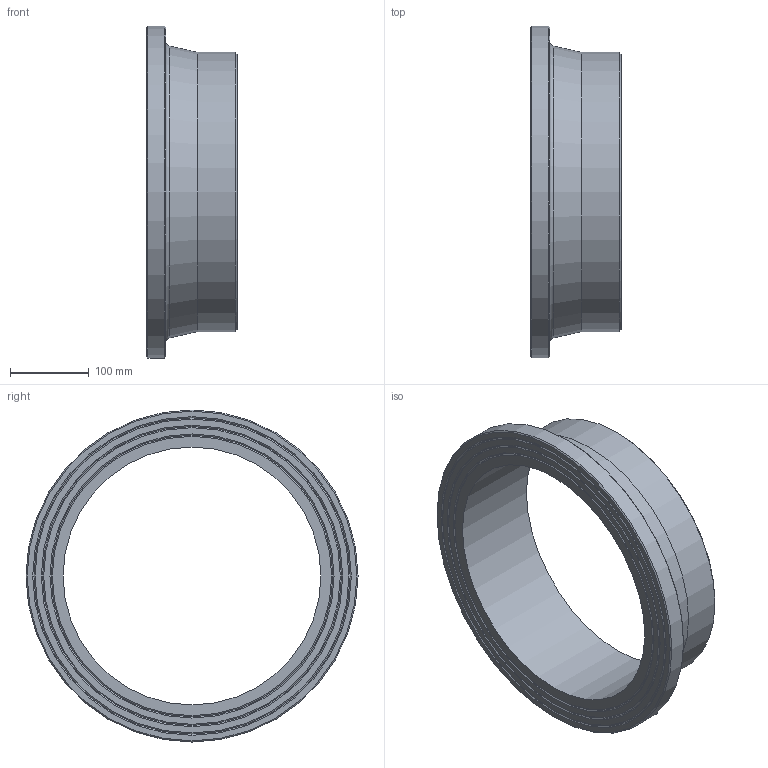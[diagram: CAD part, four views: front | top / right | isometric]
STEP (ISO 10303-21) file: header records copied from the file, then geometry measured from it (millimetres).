
FILE_DESCRIPTION(/* description */ ('Unknown'),/* implementation_level */ '2;1');
FILE_NAME(/* name */ 'CCP355A',/* time_stamp */ '2022-04-05T10:29:34+02:00',/* author */ ('Unknown'),/* organization */ ('Unknown'),/* preprocessor_version */ 'ST-DEVELOPER v18.1',/* originating_system */ 'Solid Edge',/* authorisation */ 'Unknown');
FILE_SCHEMA (('AUTOMOTIVE_DESIGN {1 0 10303 214 3 1 1}'));
Length unit declared in the file: millimetre
Products named in the file (1): CCP355A
Bounding box: 115 x 422 x 422 mm (x, y, z)
Volume: 2861010 mm3; surface area: 351495.3 mm2
Topology: 1 solids, 1 shells, 20 faces, 35 edges, 21 vertices
Faces by surface type: cone 10, plane 6, cylinder 3, torus 1
Full cylindrical faces by diameter (mm): 327.8 x1, 355 x1, 422 x1
Entity records: 438 total; most frequent: DIRECTION 82, CARTESIAN_POINT 61, AXIS2_PLACEMENT_3D 41, ORIENTED_EDGE 40, EDGE_LOOP 40, FACE_BOUND 40, EDGE_CURVE 20, VERTEX_POINT 20
